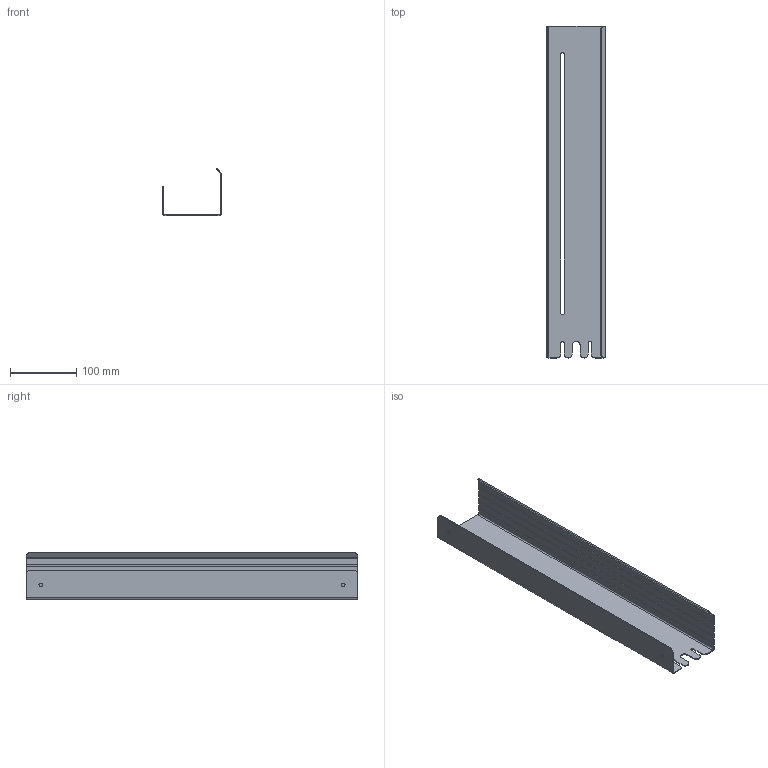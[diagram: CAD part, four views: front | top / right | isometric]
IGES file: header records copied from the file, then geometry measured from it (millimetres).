
Start section: IGES file generated by C3D Converter 1.5 translator by C3D Labs., translator version IGESOUT-5.1.
Global section: file name: D:\×åðòåæè èçäåëèé Âàííà 2023\Ïîëêè Simple Íîâûå\3D\×åðòåæè 22.07.2023\3D\S²MPLE_SHELF_500..igs; preprocessor: 1.0; author: a.kalenyk83@gmail.com; organization: unknown; date: -17770622:112021; units: millimetre
Bounding box: 88.5 x 500 x 72.1 mm (x, y, z)
Volume: 147444.7 mm3; surface area: 200115.8 mm2
Topology: 1 solids, 1 shells, 88 faces, 234 edges, 148 vertices
Faces by surface type: revolution 47, bspline 41
